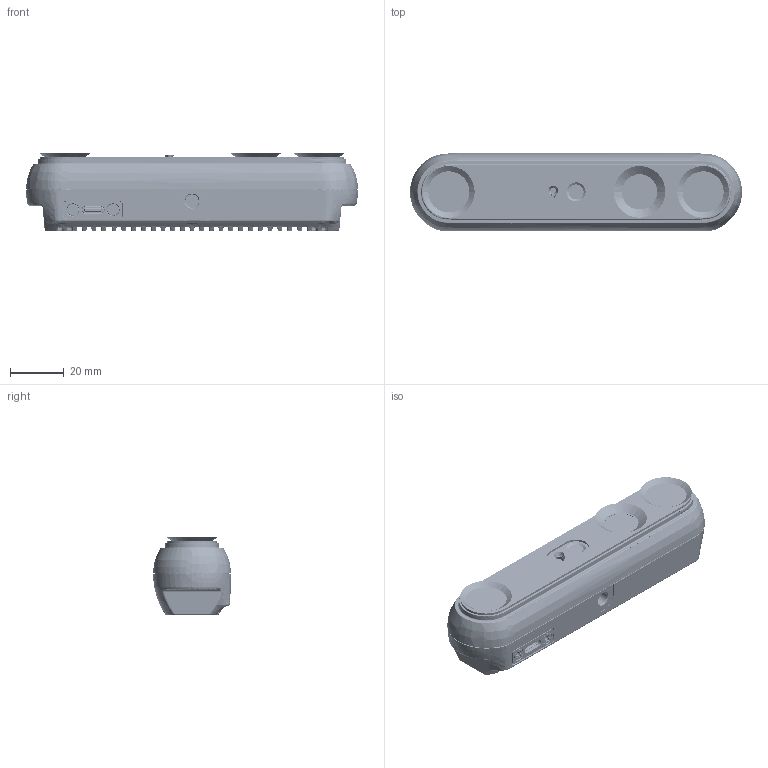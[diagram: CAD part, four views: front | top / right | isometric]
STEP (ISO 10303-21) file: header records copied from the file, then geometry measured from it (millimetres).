
FILE_DESCRIPTION((''),'2;1');
FILE_NAME('_3D_STP_GEMINI_336L_ASM_WITH_FO_ASM','2024-05-24T09:45:27',('tangjianhua'),(''),'CREO PARAMETRIC BY PTC INC, 2021284','CREO PARAMETRIC BY PTC INC, 2021284','');
FILE_SCHEMA(('AUTOMOTIVE_DESIGN { 1 0 10303 214 1 1 1 1 }'));
Products named in the file (43): 1111_3_1; LENS_2_1; SEALING_SILICA_GEL-AG_3_1; UPPER_HOUS_ASM_1_ASM_1_ASM; BRACKET_MAX_3_1; BRACKET_ASM_1_ASM_1_ASM; T10_M3_35_42_075_20_1_1; SCREW_CM2X035-035X1_1_1; CM20_LOWER_ASM_1_ASM_1_ASM; PRT0002_1_1; LOWER_HOU_ASM_1_ASM_1_ASM; RUBBER_D_2_1; RUBBER_E_2_1; RUBBER_E1_3_1; RUBBER_E_ALL_ASM_1_ASM_1_ASM; RUBBER_ASM_2_ASM_1_ASM; GEMINI_336L_MD_ASM_2_ASM_1_ASM; DS_FOR_2_1; AT_I7_ASM_1_ASM; DS6_1_2_1; MDE_1_1; DS101_1_1; LEN778_ASM_4_ASM; TMTE_1_1; TM_CAP_1_1; SM_3_ASM_2_ASM; T05001_ASM_5_ASM; 00_ASM_2_ASM_3_ASM; PCAB_M_2_1; BREP_WITH_VOIDS_92280_1_1_1_2; BREP_WITH_VOIDS_92280_1_1_2_2; BREP_WITH_VOIDS_92280_1_1_ASM_2_ASM; BREP_WITH_VOIDS_92280_ASM_1_ASM_ASM; WTC100-1117-00R_ASM_1_ASM_2_ASM; TYPE-00_ASM_1_ASM_2_ASM; 810__1_1; SWITCH_1_1; M00_M_3_ASM_1_ASM; PCBA_ASM_1_ASM_4_ASM; GEMINI_336L_STACK_ASM_2_ASM_1_ASM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
Assembly tree (45 placements, depth 10):
  _3D_STP_GEMINI_336L_ASM_WITH_FO_ASM
    00_GEMINI_336L_3D_ALL_ASM_1_ASM
      GEMINI_336L_MD_ASM_2_ASM_1_ASM
        UPPER_HOUS_ASM_1_ASM_1_ASM
          1111_3_1
          LENS_2_1
          SEALING_SILICA_GEL-AG_3_1
        BRACKET_ASM_1_ASM_1_ASM
          BRACKET_MAX_3_1
        LOWER_HOU_ASM_1_ASM_1_ASM
          CM20_LOWER_ASM_1_ASM_1_ASM
            T10_M3_35_42_075_20_1_1  x2
            SCREW_CM2X035-035X1_1_1  x2
          PRT0002_1_1
        RUBBER_ASM_2_ASM_1_ASM
          RUBBER_D_2_1
          RUBBER_E_ALL_ASM_1_ASM_1_ASM
            RUBBER_E_2_1
            RUBBER_E1_3_1
      GEMINI_336L_STACK_ASM_2_ASM_1_ASM
        00_ASM_2_ASM_3_ASM
          AT_I7_ASM_1_ASM  x2
            DS_FOR_2_1
          DS6_1_2_1
          LEN778_ASM_4_ASM
            MDE_1_1
            DS101_1_1
          T05001_ASM_5_ASM
            SM_3_ASM_2_ASM
              TMTE_1_1
              TM_CAP_1_1
        PCBA_ASM_1_ASM_4_ASM
          M00_M_3_ASM_1_ASM
            PCAB_M_2_1
            TYPE-00_ASM_1_ASM_2_ASM
              WTC100-1117-00R_ASM_1_ASM_2_ASM
                BREP_WITH_VOIDS_92280_ASM_1_ASM_ASM
                  BREP_WITH_VOIDS_92280_1_1_ASM_2_ASM
            810__1_1
            SWITCH_1_1
      0002_2_1
Bounding box: 124.02 x 29.03 x 29.18 mm (x, y, z)
Volume: 39429.8 mm3; surface area: 53057.2 mm2
Topology: 25 solids, 76 shells, 9768 faces, 26399 edges, 16606 vertices
Faces by surface type: plane 3727, cylinder 2847, bspline 1828, torus 735, cone 472, sphere 81, extrusion 62, revolution 16
Entity records: 465954 total; most frequent: CARTESIAN_POINT 195539, ORIENTED_EDGE 51012, DIRECTION 42663, EDGE_CURVE 25513, VERTEX_POINT 16108, AXIS2_PLACEMENT_3D 14989, VECTOR 12673, LINE 12621
